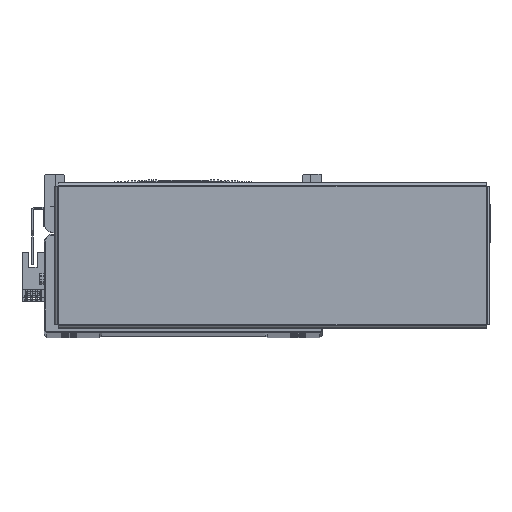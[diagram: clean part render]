
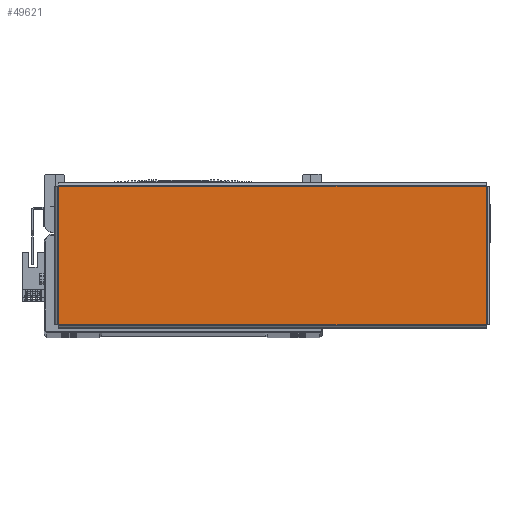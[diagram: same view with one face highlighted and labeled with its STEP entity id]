
A CAD part, top view. The second image highlights one B-rep face of the part: STEP entity #49621.
In plain terms, the highlighted planar face has unit normal (0, 0, 1) as drawn and (0, -1, 0) by its records, which use the part's own axes.
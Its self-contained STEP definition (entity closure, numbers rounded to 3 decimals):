
#1172 = EDGE_CURVE ( 'NONE', #4023, #4027, #13281, .T. ) ;
#1261 = EDGE_CURVE ( 'NONE', #4018, #4000, #13644, .T. ) ;
#2219 = EDGE_CURVE ( 'NONE', #4027, #4018, #19936, .T. ) ;
#3593 = EDGE_CURVE ( 'NONE', #4000, #4023, #58536, .T. ) ;
#4000 = VERTEX_POINT ( 'NONE', #55974 ) ;
#4018 = VERTEX_POINT ( 'NONE', #56045 ) ;
#4023 = VERTEX_POINT ( 'NONE', #56031 ) ;
#4027 = VERTEX_POINT ( 'NONE', #56034 ) ;
#13281 = LINE ( 'NONE', #72611, #13332 ) ;
#13332 = VECTOR ( 'NONE', #72729, 1000. ) ;
#13644 = LINE ( 'NONE', #28294, #13680 ) ;
#13680 = VECTOR ( 'NONE', #28287, 1000. ) ;
#19918 = VECTOR ( 'NONE', #55226, 1000. ) ;
#19936 = LINE ( 'NONE', #55247, #19918 ) ;
#22411 = CARTESIAN_POINT ( 'NONE',  ( -130.863, -1.5, 42.293 ) ) ;
#22460 = DIRECTION ( 'NONE',  ( 0., 0., -1. ) ) ;
#28287 = DIRECTION ( 'NONE',  ( -1., 0., 0. ) ) ;
#28294 = CARTESIAN_POINT ( 'NONE',  ( 130.893, -1.5, 42.263 ) ) ;
#32371 = AXIS2_PLACEMENT_3D ( 'NONE', #54070, #54071, #54080 ) ;
#34162 = EDGE_LOOP ( 'NONE', ( #61357, #62504, #61405, #62558 ) ) ;
#49621 = ADVANCED_FACE ( 'NONE', ( #65724 ), #54064, .F. ) ;
#54064 = PLANE ( 'NONE',  #32371 ) ;
#54070 = CARTESIAN_POINT ( 'NONE',  ( 0., -1.5, 0. ) ) ;
#54071 = DIRECTION ( 'NONE',  ( 0., 1., 0. ) ) ;
#54080 = DIRECTION ( 'NONE',  ( 0., 0., 1. ) ) ;
#55226 = DIRECTION ( 'NONE',  ( 0., 0., 1. ) ) ;
#55247 = CARTESIAN_POINT ( 'NONE',  ( 130.863, -1.5, -42.293 ) ) ;
#55974 = CARTESIAN_POINT ( 'NONE',  ( -130.863, -1.5, 42.263 ) ) ;
#56031 = CARTESIAN_POINT ( 'NONE',  ( -130.863, -1.5, -42.263 ) ) ;
#56034 = CARTESIAN_POINT ( 'NONE',  ( 130.863, -1.5, -42.263 ) ) ;
#56045 = CARTESIAN_POINT ( 'NONE',  ( 130.863, -1.5, 42.263 ) ) ;
#58536 = LINE ( 'NONE', #22411, #58553 ) ;
#58553 = VECTOR ( 'NONE', #22460, 1000. ) ;
#61357 = ORIENTED_EDGE ( 'NONE', *, *, #2219, .T. ) ;
#61405 = ORIENTED_EDGE ( 'NONE', *, *, #3593, .T. ) ;
#62504 = ORIENTED_EDGE ( 'NONE', *, *, #1261, .T. ) ;
#62558 = ORIENTED_EDGE ( 'NONE', *, *, #1172, .T. ) ;
#65724 = FACE_OUTER_BOUND ( 'NONE', #34162, .T. ) ;
#72611 = CARTESIAN_POINT ( 'NONE',  ( -130.893, -1.5, -42.263 ) ) ;
#72729 = DIRECTION ( 'NONE',  ( 1., 0., 0. ) ) ;
